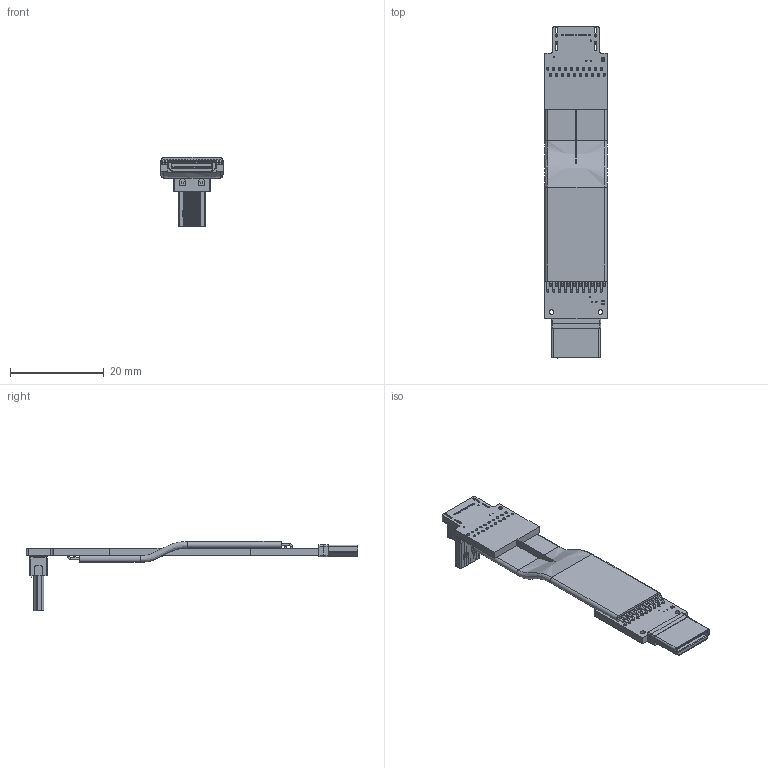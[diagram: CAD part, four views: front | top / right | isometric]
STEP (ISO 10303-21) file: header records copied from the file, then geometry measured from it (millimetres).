
FILE_DESCRIPTION(('Open CASCADE Model'),'2;1');
FILE_NAME('Open CASCADE Shape Model','2022-06-09T22:45:33',('Author'),( 'Open CASCADE'),'Open CASCADE STEP processor 6.8','Open CASCADE 6.8' ,'Unknown');
FILE_SCHEMA(('AUTOMOTIVE_DESIGN { 1 0 10303 214 1 1 1 1 }'));
Length unit declared in the file: millimetre
Products named in the file (70): PCB; Board; Open CASCADE STEP translator 6.8 2.1.1; _1; HDMI_MICRO_D(M)(1); Open CASCADE STEP translator 6.8 2.3; miniHDMI-p_RGB10275833; HDMI_type_C1; Free-Models; cable20-A1A3
Assembly tree (70 placements, depth 3):
  PCB
    Board
      Open CASCADE STEP translator 6.8 2.1.1
    _1
      HDMI_MICRO_D(M)(1)
      HDMI_MICRO_D(M)(1)
      HDMI_MICRO_D(M)(1)
      HDMI_MICRO_D(M)(1)
      HDMI_MICRO_D(M)(1)
      HDMI_MICRO_D(M)(1)
      HDMI_MICRO_D(M)(1)
      HDMI_MICRO_D(M)(1)
      HDMI_MICRO_D(M)(1)
      HDMI_MICRO_D(M)(1)
      HDMI_MICRO_D(M)(1)
      HDMI_MICRO_D(M)(1)
      HDMI_MICRO_D(M)(1)
      HDMI_MICRO_D(M)(1)
      HDMI_MICRO_D(M)(1)
      HDMI_MICRO_D(M)(1)
      HDMI_MICRO_D(M)(1)
      HDMI_MICRO_D(M)(1)
      HDMI_MICRO_D(M)(1)
      HDMI_MICRO_D(M)(1)
      HDMI_MICRO_D(M)(1)
      HDMI_MICRO_D(M)(1)
    Open CASCADE STEP translator 6.8 2.3
      miniHDMI-p_RGB10275833  x2
      HDMI_type_C1
    Free-Models
      cable20-A1A3
      cable20-A1A3
      cable20-A1A3
      cable20-A1A3
      cable20-A1A3
      cable20-A1A3
      cable20-A1A3
      cable20-A1A3
      cable20-A1A3
      cable20-A1A3
      cable20-A1A3
      cable20-A1A3
      cable20-A1A3
      cable20-A1A3
      cable20-A1A3
      cable20-A1A3
      cable20-A1A3
      cable20-A1A3
      cable20-A1A3
      cable20-A1A3
      cable20-A1A3
      cable20-A1A3
      cable20-A1A3
      cable20-A1A3
      cable20-A1A3
      cable20-A1A3
      cable20-A1A3
      cable20-A1A3
      cable20-A1A3
      cable20-A1A3
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Bounding box: 13.4 x 70.65 x 14.7 mm (x, y, z)
Volume: 1669.3 mm3; surface area: 5129.3 mm2
Topology: 66 solids, 66 shells, 993 faces, 2457 edges, 1596 vertices
Faces by surface type: plane 606, cylinder 291, torus 46, bspline 46, extrusion 4
Full cylindrical faces by diameter (mm): 0.254 x15, 0.38 x9, 0.4 x96, 0.404 x2, 0.405 x2, 0.55 x40
Entity records: 40695 total; most frequent: CARTESIAN_POINT 7879, ORIENTED_EDGE 4866, DIRECTION 4835, EDGE_CURVE 2433, AXIS2_PLACEMENT_3D 1612, VECTOR 1611, LINE 1607, VERTEX_POINT 1580
